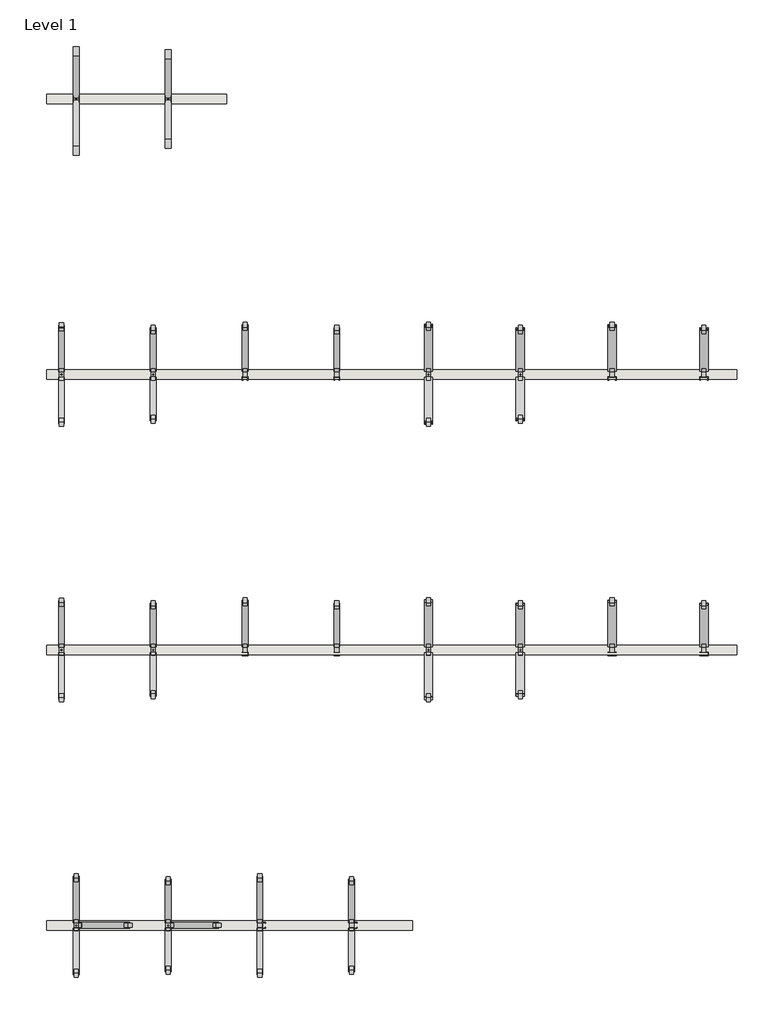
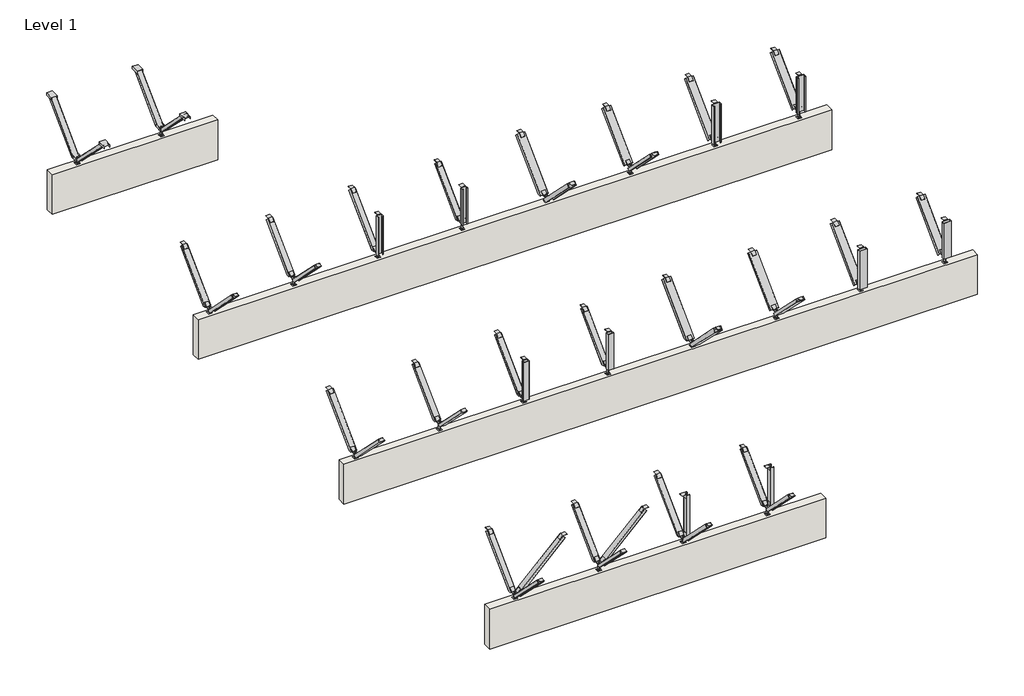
# One storey: 22 beams, 4 walls.
"""IFC4 building model written with IfcOpenShell, lengths in millimetres."""

from ifc_helpers import new_model, si_unit, origin, origin_with_axes, place, context, project, spatial, polyline, outline, extrude, transform, mapped, element, save
from components import beam_64mm_stud_drop_5261cdfa, beam_64mm_stud_drop_7ac056a3, beam_64mm_stud_drop_664ceee9, beam_64mm_stud_drop_543df7c1, beam_64mm_stud_drop_vertical_b8a65905, beam_64mm_stud_drop_vertical_f6c59acf, beam_64mm_stud_drop_vertical_d4cb6fa7, beam_64mm_stud_pop_15a7938f, beam_64mm_stud_pop_63f9fb21, beam_64mm_stud_pop_ea3ec6bf, beam_64mm_stud_pop_ef9a7411, beam_64mm_stud_pop_vertical_5cf5dddc, beam_64mm_stud_pop_vertical_10145a59, beam_64mm_stud_pop_vertical_4b45963f, beam_92mm_stud_drop_c20c071f, beam_92mm_stud_drop_e6e0bc5a, beam_92mm_stud_drop_vertical_5b7d6dc8, beam_92mm_stud_drop_vertical_eabdd61b, beam_92mm_stud_pop_189d612e, beam_92mm_stud_pop_bfe8406a, beam_92mm_stud_pop_vertical_78648807, beam_92mm_stud_pop_vertical_ff91821f

model = new_model("IFC4")

# Units and contexts
model_context = context("Model", 3, world=origin())
ifc_project = project(units=[si_unit("LENGTHUNIT", "METRE", prefix="MILLI")], contexts=[model_context])

# Site, building, storey
site = spatial("IfcSite", under=ifc_project)
building = spatial("IfcBuilding", under=site)
storey = spatial("IfcBuildingStorey", under=building, Name="Level 1", Elevation=0.0)

# Beams
placement = place(None, origin())
beam_64mm_stud_drop_shape = beam_64mm_stud_drop_5261cdfa(model_context)
element("IfcBeam", 1, ObjectType="Vertibrace Standard Brace : 64mm Stud Drop", at=placement, inside=storey, context=model_context, shape_type="MappedRepresentation", body=[
    mapped(beam_64mm_stud_drop_shape, transform((-12333.0024232, 3939.2882287, 500.0), x_axis=(0.0, 1.0, 0.0), y_axis=(-1.0, 0.0, 0.0), z_axis=(0.0, 0.0, 1.0))),
])
beam_64mm_stud_drop_2_shape = beam_64mm_stud_drop_7ac056a3(model_context)
element("IfcBeam", 2, ObjectType="Vertibrace 3-way Brace : 64mm Stud Drop", at=placement, inside=storey, context=model_context, shape_type="MappedRepresentation", body=[
    mapped(beam_64mm_stud_drop_2_shape, transform((-12171.7458509, -2060.7117713, 500.0), x_axis=(0.0, 1.0, 0.0), y_axis=(-1.0, 0.0, 0.0), z_axis=(0.0, 0.0, 1.0))),
])
beam_64mm_stud_drop_3_shape = beam_64mm_stud_drop_664ceee9(model_context)
element("IfcBeam", 3, ObjectType="Vertibrace U-Channel  Brace : 64mm Stud Drop", at=placement, inside=storey, context=model_context, shape_type="MappedRepresentation", body=[
    mapped(beam_64mm_stud_drop_3_shape, transform((-12171.7458509, 6939.2882287, 500.0), x_axis=(0.0, 1.0, 0.0), y_axis=(-1.0, 0.0, 0.0), z_axis=(0.0, 0.0, 1.0))),
])
beam_64mm_stud_drop_4_shape = beam_64mm_stud_drop_543df7c1(model_context)
element("IfcBeam", 4, ObjectType="Vertibrace Boxstud Brace : 64mm Stud Drop", at=placement, inside=storey, context=model_context, shape_type="MappedRepresentation", body=[
    mapped(beam_64mm_stud_drop_4_shape, transform((-12333.0024232, 939.2882287, 500.0), x_axis=(0.0, 1.0, 0.0), y_axis=(-1.0, 0.0, 0.0), z_axis=(0.0, 0.0, 1.0))),
])
beam_64mm_stud_drop_vertical_shape = beam_64mm_stud_drop_vertical_b8a65905(model_context)
element("IfcBeam", 5, ObjectType="Vertibrace Standard Brace : 64mm Stud Drop Vertical", at=placement, inside=storey, context=model_context, shape_type="MappedRepresentation", body=[
    mapped(beam_64mm_stud_drop_vertical_shape, transform((-10333.0024232, 3939.2882287, 500.0), x_axis=(0.0, -1.0, 0.0), y_axis=(1.0, 0.0, 0.0), z_axis=(0.0, 0.0, 1.0))),
])
beam_64mm_stud_drop_vertical_2_shape = beam_64mm_stud_drop_vertical_f6c59acf(model_context)
element("IfcBeam", 6, ObjectType="Vertibrace 3-way Brace : 64mm Stud Drop Vertical", at=placement, inside=storey, context=model_context, shape_type="MappedRepresentation", body=[
    mapped(beam_64mm_stud_drop_vertical_2_shape, transform((-10171.7458509, -2060.7117713, 500.0), x_axis=(0.0, 1.0, 0.0), y_axis=(-1.0, 0.0, 0.0), z_axis=(0.0, 0.0, 1.0))),
])
beam_64mm_stud_drop_vertical_3_shape = beam_64mm_stud_drop_vertical_d4cb6fa7(model_context)
element("IfcBeam", 7, ObjectType="Vertibrace Boxstud Brace : 64mm Stud Drop Vertical", at=placement, inside=storey, context=model_context, shape_type="MappedRepresentation", body=[
    mapped(beam_64mm_stud_drop_vertical_3_shape, transform((-10333.0024232, 939.2882287, 500.0), x_axis=(0.0, -1.0, 0.0), y_axis=(1.0, 0.0, 0.0), z_axis=(0.0, 0.0, 1.0))),
])
beam_64mm_stud_pop_shape = beam_64mm_stud_pop_15a7938f(model_context)
element("IfcBeam", 8, ObjectType="Vertibrace Standard Brace : 64mm Stud Pop", at=placement, inside=storey, context=model_context, shape_type="MappedRepresentation", body=[
    mapped(beam_64mm_stud_pop_shape, transform((-11333.0024232, 3939.2882287, 500.0), x_axis=(0.0, -1.0, 0.0), y_axis=(1.0, 0.0, 0.0), z_axis=(0.0, 0.0, 1.0))),
])
beam_64mm_stud_pop_2_shape = beam_64mm_stud_pop_63f9fb21(model_context)
element("IfcBeam", 9, ObjectType="Vertibrace 3-way Brace : 64mm Stud Pop", at=placement, inside=storey, context=model_context, shape_type="MappedRepresentation", body=[
    mapped(beam_64mm_stud_pop_2_shape, transform((-11171.7458509, -2060.7117713, 500.0), x_axis=(0.0, 1.0, 0.0), y_axis=(-1.0, 0.0, 0.0), z_axis=(0.0, 0.0, 1.0))),
])
beam_64mm_stud_pop_3_shape = beam_64mm_stud_pop_ea3ec6bf(model_context)
element("IfcBeam", 10, ObjectType="Vertibrace U-Channel  Brace : 64mm Stud Pop", at=placement, inside=storey, context=model_context, shape_type="MappedRepresentation", body=[
    mapped(beam_64mm_stud_pop_3_shape, transform((-11171.7458509, 6939.2882287, 500.0), x_axis=(0.0, 1.0, 0.0), y_axis=(-1.0, 0.0, 0.0), z_axis=(0.0, 0.0, 1.0))),
])
beam_64mm_stud_pop_4_shape = beam_64mm_stud_pop_ef9a7411(model_context)
element("IfcBeam", 11, ObjectType="Vertibrace Boxstud Brace : 64mm Stud Pop", at=placement, inside=storey, context=model_context, shape_type="MappedRepresentation", body=[
    mapped(beam_64mm_stud_pop_4_shape, transform((-11333.0024232, 939.2882287, 500.0), x_axis=(0.0, -1.0, 0.0), y_axis=(1.0, 0.0, 0.0), z_axis=(0.0, 0.0, 1.0))),
])
beam_64mm_stud_pop_vertical_shape = beam_64mm_stud_pop_vertical_5cf5dddc(model_context)
element("IfcBeam", 12, ObjectType="Vertibrace Standard Brace : 64mm Stud Pop Vertical", at=placement, inside=storey, context=model_context, shape_type="MappedRepresentation", body=[
    mapped(beam_64mm_stud_pop_vertical_shape, transform((-9333.0024232, 3939.2882287, 500.0), x_axis=(0.0, -1.0, 0.0), y_axis=(1.0, 0.0, 0.0), z_axis=(0.0, 0.0, 1.0))),
])
beam_64mm_stud_pop_vertical_2_shape = beam_64mm_stud_pop_vertical_10145a59(model_context)
element("IfcBeam", 13, ObjectType="Vertibrace 3-way Brace : 64mm Stud Pop Vertical", at=placement, inside=storey, context=model_context, shape_type="MappedRepresentation", body=[
    mapped(beam_64mm_stud_pop_vertical_2_shape, transform((-9171.7458509, -2060.7117713, 500.0), x_axis=(0.0, 1.0, 0.0), y_axis=(-1.0, 0.0, 0.0), z_axis=(0.0, 0.0, 1.0))),
])
beam_64mm_stud_pop_vertical_3_shape = beam_64mm_stud_pop_vertical_4b45963f(model_context)
element("IfcBeam", 14, ObjectType="Vertibrace Boxstud Brace : 64mm Stud Pop Vertical", at=placement, inside=storey, context=model_context, shape_type="MappedRepresentation", body=[
    mapped(beam_64mm_stud_pop_vertical_3_shape, transform((-9333.0024232, 939.2882287, 500.0), x_axis=(0.0, -1.0, 0.0), y_axis=(1.0, 0.0, 0.0), z_axis=(0.0, 0.0, 1.0))),
])
beam_92mm_stud_drop_shape = beam_92mm_stud_drop_c20c071f(model_context)
element("IfcBeam", 15, ObjectType="Vertibrace Standard Brace : 92mm Stud Drop", at=placement, inside=storey, context=model_context, shape_type="MappedRepresentation", body=[
    mapped(beam_92mm_stud_drop_shape, transform((-8333.0024232, 3939.2882287, 500.0), x_axis=(0.0, -1.0, 0.0), y_axis=(1.0, 0.0, 0.0), z_axis=(0.0, 0.0, 1.0))),
])
beam_92mm_stud_drop_2_shape = beam_92mm_stud_drop_e6e0bc5a(model_context)
element("IfcBeam", 16, ObjectType="Vertibrace Boxstud Brace : 92mm Stud Drop", at=placement, inside=storey, context=model_context, shape_type="MappedRepresentation", body=[
    mapped(beam_92mm_stud_drop_2_shape, transform((-8333.0024232, 939.2882287, 500.0), x_axis=(0.0, -1.0, 0.0), y_axis=(1.0, 0.0, 0.0), z_axis=(0.0, 0.0, 1.0))),
])
beam_92mm_stud_drop_vertical_shape = beam_92mm_stud_drop_vertical_5b7d6dc8(model_context)
element("IfcBeam", 17, ObjectType="Vertibrace Standard Brace : 92mm Stud Drop Vertical", at=placement, inside=storey, context=model_context, shape_type="MappedRepresentation", body=[
    mapped(beam_92mm_stud_drop_vertical_shape, transform((-6333.0024232, 3939.2882287, 500.0), x_axis=(0.0, -1.0, 0.0), y_axis=(1.0, 0.0, 0.0), z_axis=(0.0, 0.0, 1.0))),
])
beam_92mm_stud_drop_vertical_2_shape = beam_92mm_stud_drop_vertical_eabdd61b(model_context)
element("IfcBeam", 18, ObjectType="Vertibrace Boxstud Brace : 92mm Stud Drop Vertical", at=placement, inside=storey, context=model_context, shape_type="MappedRepresentation", body=[
    mapped(beam_92mm_stud_drop_vertical_2_shape, transform((-6333.0024232, 939.2882287, 500.0), x_axis=(0.0, -1.0, 0.0), y_axis=(1.0, 0.0, 0.0), z_axis=(0.0, 0.0, 1.0))),
])
beam_92mm_stud_pop_shape = beam_92mm_stud_pop_189d612e(model_context)
element("IfcBeam", 19, ObjectType="Vertibrace Standard Brace : 92mm Stud Pop", at=placement, inside=storey, context=model_context, shape_type="MappedRepresentation", body=[
    mapped(beam_92mm_stud_pop_shape, transform((-7333.0024232, 3939.2882287, 500.0), x_axis=(0.0, -1.0, 0.0), y_axis=(1.0, 0.0, 0.0), z_axis=(0.0, 0.0, 1.0))),
])
beam_92mm_stud_pop_2_shape = beam_92mm_stud_pop_bfe8406a(model_context)
element("IfcBeam", 20, ObjectType="Vertibrace Boxstud Brace : 92mm Stud Pop", at=placement, inside=storey, context=model_context, shape_type="MappedRepresentation", body=[
    mapped(beam_92mm_stud_pop_2_shape, transform((-7333.0024232, 939.2882287, 500.0), x_axis=(0.0, -1.0, 0.0), y_axis=(1.0, 0.0, 0.0), z_axis=(0.0, 0.0, 1.0))),
])
beam_92mm_stud_pop_vertical_shape = beam_92mm_stud_pop_vertical_78648807(model_context)
element("IfcBeam", 21, ObjectType="Vertibrace Standard Brace : 92mm Stud Pop Vertical", at=placement, inside=storey, context=model_context, shape_type="MappedRepresentation", body=[
    mapped(beam_92mm_stud_pop_vertical_shape, transform((-5333.0024232, 3939.2882287, 500.0), x_axis=(0.0, -1.0, 0.0), y_axis=(1.0, 0.0, 0.0), z_axis=(0.0, 0.0, 1.0))),
])
beam_92mm_stud_pop_vertical_2_shape = beam_92mm_stud_pop_vertical_ff91821f(model_context)
element("IfcBeam", 22, ObjectType="Vertibrace Boxstud Brace : 92mm Stud Pop Vertical", at=placement, inside=storey, context=model_context, shape_type="MappedRepresentation", body=[
    mapped(beam_92mm_stud_pop_vertical_2_shape, transform((-5333.0024232, 939.2882287, 500.0), x_axis=(0.0, -1.0, 0.0), y_axis=(1.0, 0.0, 0.0), z_axis=(0.0, 0.0, 1.0))),
])

# Walls
element("IfcWall", 23, ObjectType="Generic - 100mm", at=placement, inside=storey, context=model_context, shape_type="SweptSolid", body=[
    extrude(outline(polyline([(-12496.0406245, 3989.2882287), (-4971.6881854, 3989.2882287), (-4971.6881854, 3889.2882287), (-12496.0406245, 3889.2882287), (-12496.0406245, 3989.2882287)])), origin_with_axes(), (0.0, 0.0, 1.0), 500.0),
])
element("IfcWall", 24, ObjectType="Generic - 100mm", at=placement, inside=storey, context=model_context, shape_type="SweptSolid", body=[
    extrude(outline(polyline([(-12496.0406245, -2010.7117713), (-8507.5798832, -2010.7117713), (-8507.5798832, -2110.7117713), (-12496.0406245, -2110.7117713), (-12496.0406245, -2010.7117713)])), origin_with_axes(), (0.0, 0.0, 1.0), 500.0),
])
element("IfcWall", 25, ObjectType="Generic - 100mm", at=placement, inside=storey, context=model_context, shape_type="SweptSolid", body=[
    extrude(outline(polyline([(-12496.0406245, 6989.2882287), (-10533.6434237, 6989.2882287), (-10533.6434237, 6889.2882287), (-12496.0406245, 6889.2882287), (-12496.0406245, 6989.2882287)])), origin_with_axes(), (0.0, 0.0, 1.0), 500.0),
])
element("IfcWall", 26, ObjectType="Generic - 100mm", at=placement, inside=storey, context=model_context, shape_type="SweptSolid", body=[
    extrude(outline(polyline([(-12496.0406245, 989.2882287), (-4971.6881854, 989.2882287), (-4971.6881854, 889.2882287), (-12496.0406245, 889.2882287), (-12496.0406245, 989.2882287)])), origin_with_axes(), (0.0, 0.0, 1.0), 500.0),
])

save(model, "model.ifc")
